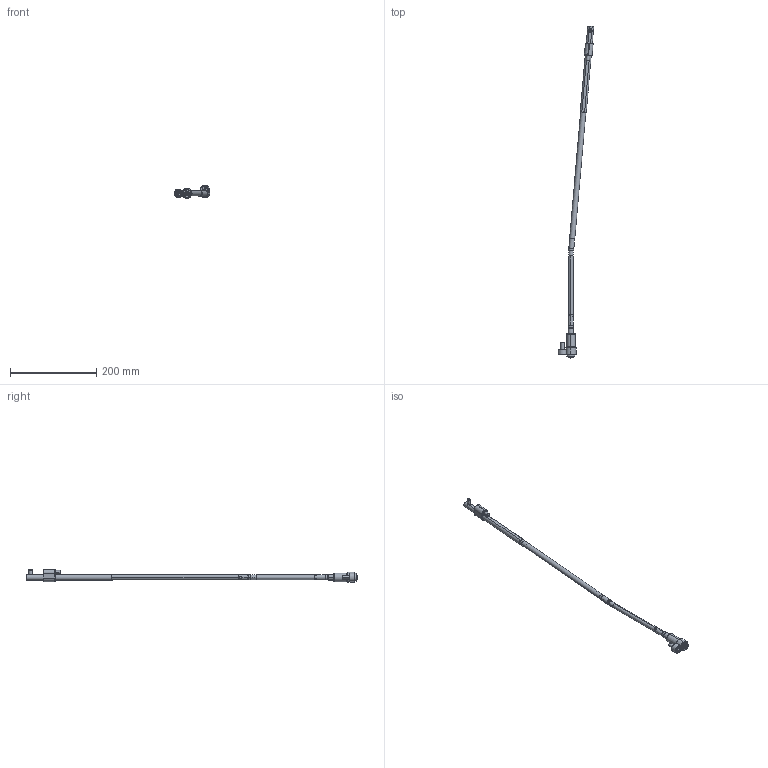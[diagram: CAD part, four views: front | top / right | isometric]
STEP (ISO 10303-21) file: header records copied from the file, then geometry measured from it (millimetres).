
FILE_DESCRIPTION (( 'STEP AP214' ), '1' );
FILE_NAME ('WL120125-INJ 5°.STEP', '2021-03-19T15:40:35', ( '' ), ( '' ), 'SwSTEP 2.0', 'SolidWorks 2019', '' );
FILE_SCHEMA (( 'AUTOMOTIVE_DESIGN' ));
Length unit declared in the file: millimetre
Products named in the file (17): 9DR2808-TOR; Web-WL12-F00.SLDPRT; WL120125-INJ 5°; 8WL12EJEP; Web-WL12-A1; WL120100-D; WL120100-B1; Web-WL12-F01; Web-WL12-A2; Web-WL12-A3; WL120100-E; 3IMAN5X3-150_con sellador; Web-WL12-A8; 1DIN912820_DIN 912 M8 x 20 --- 20C; 1DIN912645_DIN 912 M6 x 45 --- 45C; Web-WL12-XX_OFF-WL120125-5; WL120100-B
Assembly tree (16 placements, depth 3):
  WL120125-INJ 5°
    Web-WL12-A8
    Web-WL12-XX_OFF-WL120125-5
    Web-WL12-A3
    Web-WL12-A2
    Web-WL12-A1
    Web-WL12-F00.SLDPRT
      Web-WL12-F01
      1DIN912820_DIN 912 M8 x 20 --- 20C
      1DIN912645_DIN 912 M6 x 45 --- 45C
    WL120100-D
    8WL12EJEP
    WL120100-E
    9DR2808-TOR
    WL120100-B
      WL120100-B1
      3IMAN5X3-150_con sellador
Bounding box: 82.46 x 771.58 x 29.9 mm (x, y, z)
Volume: 116548.6 mm3; surface area: 51030.1 mm2
Topology: 15 solids, 15 shells, 432 faces, 906 edges, 525 vertices
Faces by surface type: plane 139, cylinder 123, cone 120, torus 50
Entity records: 13661 total; most frequent: DIRECTION 2240, CARTESIAN_POINT 2104, ORIENTED_EDGE 1788, AXIS2_PLACEMENT_3D 929, EDGE_CURVE 894, VERTEX_POINT 525, EDGE_LOOP 477, CIRCLE 476
